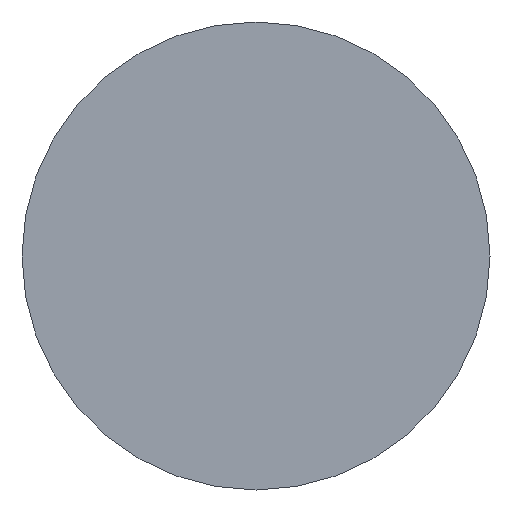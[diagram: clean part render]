
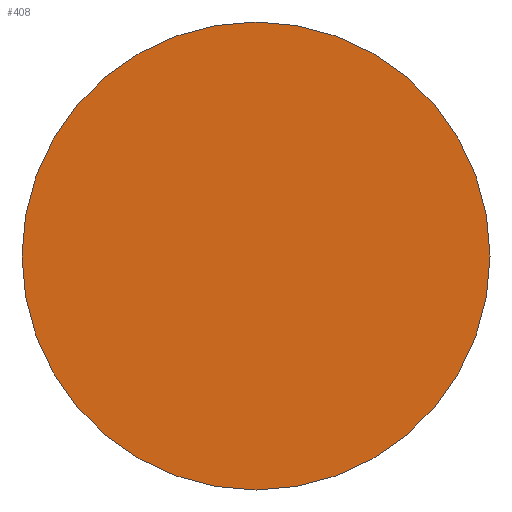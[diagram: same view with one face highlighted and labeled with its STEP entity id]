
A CAD part, front view. The second image highlights one B-rep face of the part: STEP entity #408.
In plain terms, the highlighted planar face has unit normal (0, -1, 0).
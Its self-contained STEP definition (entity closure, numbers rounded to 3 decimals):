
#10 = ORIENTED_EDGE ( 'NONE', *, *, #208, .T. ) ;
#14 = CIRCLE ( 'NONE', #225, 6. ) ;
#58 = PLANE ( 'NONE',  #355 ) ;
#61 = EDGE_LOOP ( 'NONE', ( #328, #10 ) ) ;
#84 = VERTEX_POINT ( 'NONE', #105 ) ;
#105 = CARTESIAN_POINT ( 'NONE',  ( 0., 0., 6. ) ) ;
#118 = DIRECTION ( 'NONE',  ( 0., 0., -1. ) ) ;
#126 = DIRECTION ( 'NONE',  ( 0., -1., 0. ) ) ;
#156 = CARTESIAN_POINT ( 'NONE',  ( 0., 0., 0. ) ) ;
#165 = CARTESIAN_POINT ( 'NONE',  ( 6., 0., 0. ) ) ;
#208 = EDGE_CURVE ( 'NONE', #84, #379, #461, .T. ) ;
#225 = AXIS2_PLACEMENT_3D ( 'NONE', #280, #126, #118 ) ;
#280 = CARTESIAN_POINT ( 'NONE',  ( 0., 0., 0. ) ) ;
#314 = DIRECTION ( 'NONE',  ( 0., -1., 0. ) ) ;
#328 = ORIENTED_EDGE ( 'NONE', *, *, #406, .T. ) ;
#348 = FACE_OUTER_BOUND ( 'NONE', #61, .T. ) ;
#355 = AXIS2_PLACEMENT_3D ( 'NONE', #165, #438, #366 ) ;
#366 = DIRECTION ( 'NONE',  ( 0., 0., -1. ) ) ;
#377 = AXIS2_PLACEMENT_3D ( 'NONE', #156, #314, #424 ) ;
#379 = VERTEX_POINT ( 'NONE', #434 ) ;
#406 = EDGE_CURVE ( 'NONE', #379, #84, #14, .T. ) ;
#408 = ADVANCED_FACE ( 'NONE', ( #348 ), #58, .T. ) ;
#424 = DIRECTION ( 'NONE',  ( 0., 0., -1. ) ) ;
#434 = CARTESIAN_POINT ( 'NONE',  ( 0., 0., -6. ) ) ;
#438 = DIRECTION ( 'NONE',  ( 0., -1., 0. ) ) ;
#461 = CIRCLE ( 'NONE', #377, 6. ) ;
